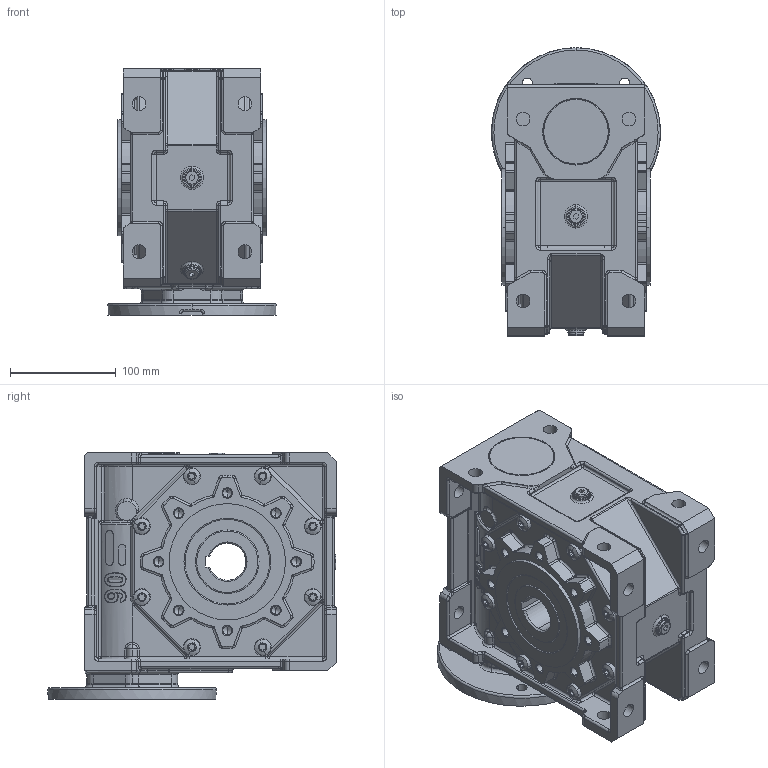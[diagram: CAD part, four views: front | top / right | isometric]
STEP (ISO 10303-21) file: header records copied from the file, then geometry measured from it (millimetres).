
FILE_DESCRIPTION (( 'STEP AP214' ), '1' );
FILE_NAME ('MKT90-FTRL-100-130.STEP', '2006-05-10T12:04:46', ( '' ), ( '' ), 'SwSTEP 2.0', 'SolidWorks 2004146', '' );
FILE_SCHEMA (( 'AUTOMOTIVE_DESIGN' ));
Length unit declared in the file: millimetre
Products named in the file (4): pøíruba130 d72 MRT80a_Výchozí; Skrin MKT90_MKT90 AP100; D6912_Šroub DIN 6912 - M6x25; MKT90-FTRL-100-130
Assembly tree (8 placements, depth 2):
  MKT90-FTRL-100-130
    Skrin MKT90_MKT90 AP100
    D6912_Šroub DIN 6912 - M6x25  x6
    pøíruba130 d72 MRT80a_Výchozí
Bounding box: 159.44 x 272.81 x 233 mm (x, y, z)
Volume: 4936763.6 mm3; surface area: 378190.4 mm2
Topology: 8 solids, 8 shells, 2428 faces, 5821 edges, 3333 vertices
Faces by surface type: cylinder 899, plane 458, torus 443, bspline 290, cone 191, sphere 147
Entity records: 238421 total; most frequent: CARTESIAN_POINT 183371, DIRECTION 11199, ORIENTED_EDGE 10582, EDGE_CURVE 5291, AXIS2_PLACEMENT_3D 4674, VERTEX_POINT 3148, CIRCLE 2710, EDGE_LOOP 2389
